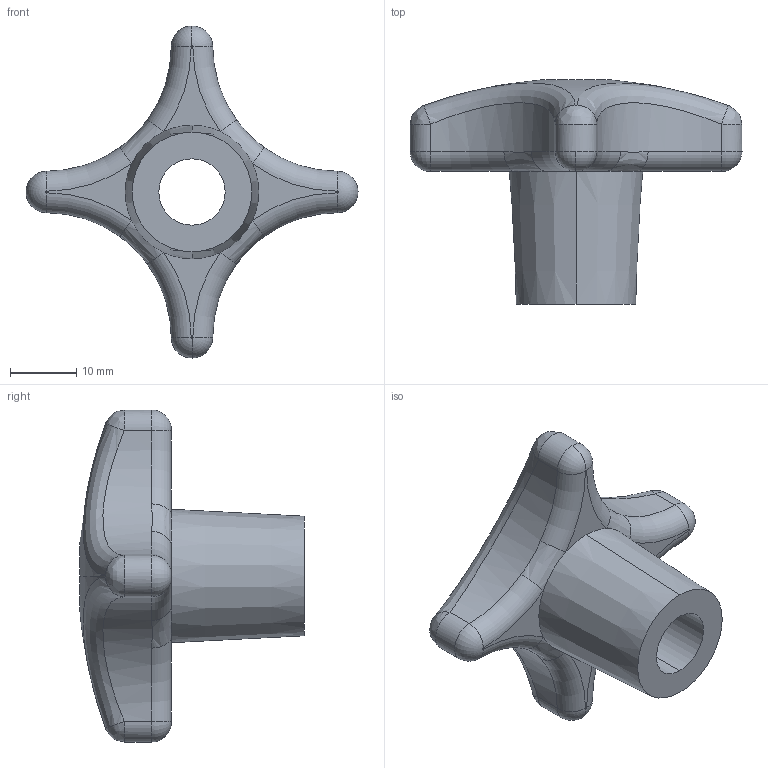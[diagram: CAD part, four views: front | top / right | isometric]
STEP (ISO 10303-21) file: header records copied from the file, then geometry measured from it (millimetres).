
FILE_DESCRIPTION (( 'STEP AP203' ), '1' );
FILE_NAME ('Default.step', '2010-01-29T17:33:33', ( 'Wixroyd' ), ( 'Wixroyd' ), 'SwSTEP 2.0', 'SolidWorks 2009', '' );
FILE_SCHEMA (( 'CONFIG_CONTROL_DESIGN' ));
Length unit declared in the file: millimetre
Products named in the file (1): Default
Bounding box: 50 x 33.81 x 50 mm (x, y, z)
Volume: 13475.9 mm3; surface area: 5228.6 mm2
Topology: 1 solids, 1 shells, 46 faces, 110 edges, 65 vertices
Faces by surface type: torus 14, bspline 12, cylinder 11, plane 5, cone 2, sphere 2
Entity records: 7490 total; most frequent: CARTESIAN_POINT 6365, DIRECTION 231, ORIENTED_EDGE 220, EDGE_CURVE 110, AXIS2_PLACEMENT_3D 109, CIRCLE 74, VERTEX_POINT 65, EDGE_LOOP 47
